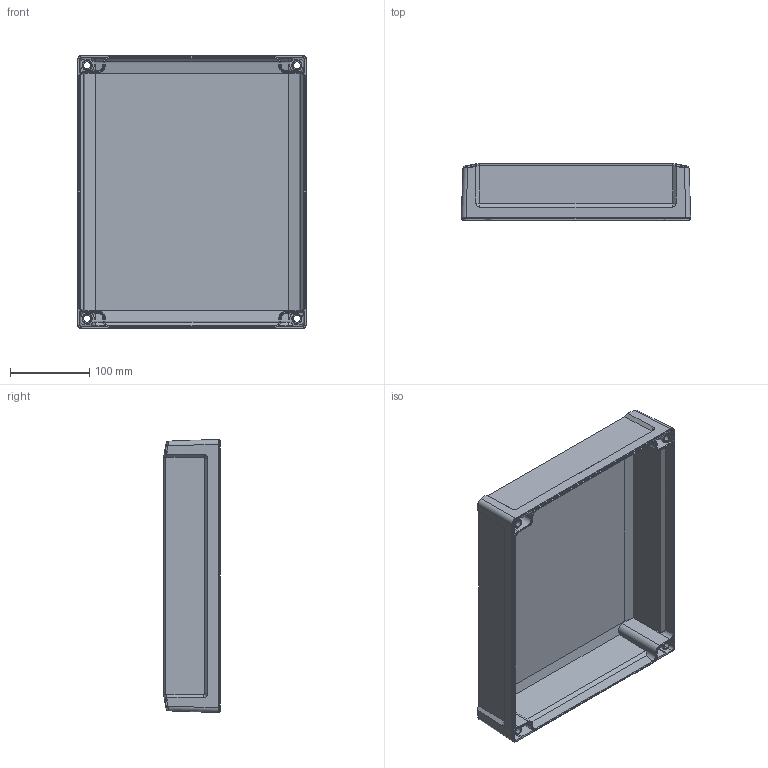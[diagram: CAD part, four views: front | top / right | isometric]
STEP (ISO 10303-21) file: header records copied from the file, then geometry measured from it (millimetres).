
FILE_DESCRIPTION (( 'STEP AP214' ), '1' );
FILE_NAME ('FIBOX TEMPO 3429 H Cover.STEP', '2017-06-21T07:40:27', ( '' ), ( '' ), 'SwSTEP 2.0', 'SolidWorks 2015', '' );
FILE_SCHEMA (( 'AUTOMOTIVE_DESIGN' ));
Length unit declared in the file: millimetre
Products named in the file (1): FIBOX TEMPO 3429 H Cover
Bounding box: 288.9 x 71.5 x 343.9 mm (x, y, z)
Volume: 604008.2 mm3; surface area: 387881.9 mm2
Topology: 1 solids, 1 shells, 285 faces, 792 edges, 516 vertices
Faces by surface type: plane 155, cone 90, bspline 24, cylinder 16
Entity records: 10549 total; most frequent: CARTESIAN_POINT 3675, ORIENTED_EDGE 1584, DIRECTION 1228, EDGE_CURVE 792, VERTEX_POINT 516, AXIS2_PLACEMENT_3D 410, VECTOR 408, LINE 408
